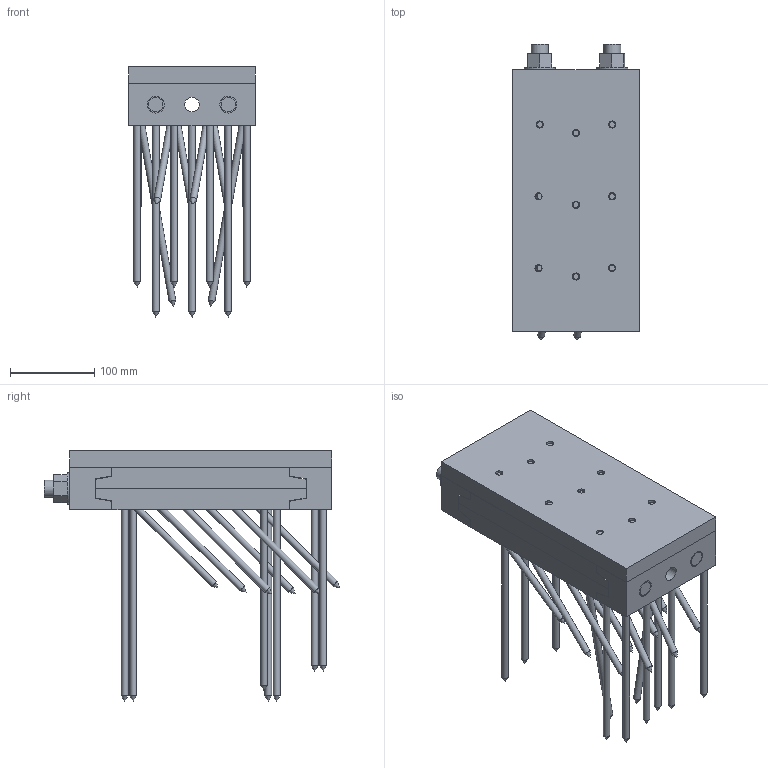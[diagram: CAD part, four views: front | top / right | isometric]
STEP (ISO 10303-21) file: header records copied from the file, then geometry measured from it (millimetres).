
FILE_DESCRIPTION(/* description */ ('Unknown'),/* implementation_level */ '2;1');
FILE_NAME(/* name */ 'MEGANT_310x150x50_Holz-Stahlanschluss_Verdeckt',/* time_stamp */ '2022-02-22T12:51:03+01:00',/* author */ ('Unknown'),/* organization */ ('Unknown'),/* preprocessor_version */ 'ST-DEVELOPER v16.7',/* originating_system */ 'Solid Edge',/* authorisation */ 'Unknown');
FILE_SCHEMA (('AUTOMOTIVE_DESIGN {1 0 10303 214 3 1 1}'));
Length unit declared in the file: millimetre
Products named in the file (16): MEGANT_310x150x50_Holz-Stahlanschluss_Verdeckt; Verbinderplatte_250x150x25_9xSKM10x30; Verbinderplatte_250x150x25_9xSKM10x30par; SK_M10x30; Verbinderplatte_250x150x25_NT; SK_Schraube_8x240; Verbinderplatte_250x150x25; SK_Schraube_8x160; Spannbacke_oben_150x50x50; Stahlplatte_150x310x20_9xSKM10x30_4xM8x70; Spannbacke_unten_150x50x50_NT; Spannbacke_unten_150x50x50; Gewindestange_M20_L340; Mutter_M20; Beilagscheibe_M20
Assembly tree (46 placements, depth 3):
  MEGANT_310x150x50_Holz-Stahlanschluss_Verdeckt
    Verbinderplatte_250x150x25_9xSKM10x30
      Verbinderplatte_250x150x25_9xSKM10x30par
      SK_M10x30  x9
    Verbinderplatte_250x150x25_NT
      SK_Schraube_8x240  x8
      Verbinderplatte_250x150x25
      SK_Schraube_8x160  x12
    Spannbacke_oben_150x50x50
    Stahlplatte_150x310x20_9xSKM10x30_4xM8x70
    Spannbacke_unten_150x50x50_NT
      Spannbacke_unten_150x50x50
      SK_Schraube_8x240  x4
    Gewindestange_M20_L340  x2
      Gewindestange_M20_L340
      Mutter_M20
      Beilagscheibe_M20
Bounding box: 150 x 349.49 x 297 mm (x, y, z)
Volume: 3189614.9 mm3; surface area: 644464.6 mm2
Topology: 44 solids, 44 shells, 573 faces, 1351 edges, 854 vertices
Faces by surface type: plane 248, cylinder 208, cone 117
Full cylindrical faces by diameter (mm): 8 x24, 8.376 x18, 8.5 x42, 10 x9, 10.5 x9, 15 x66, 17.294 x5, 20 x20, 21 x5, 37 x2
Entity records: 11740 total; most frequent: DIRECTION 1926, CARTESIAN_POINT 1809, ORIENTED_EDGE 1536, EDGE_CURVE 768, FACE_BOUND 732, EDGE_LOOP 730, AXIS2_PLACEMENT_3D 719, VERTEX_POINT 602
